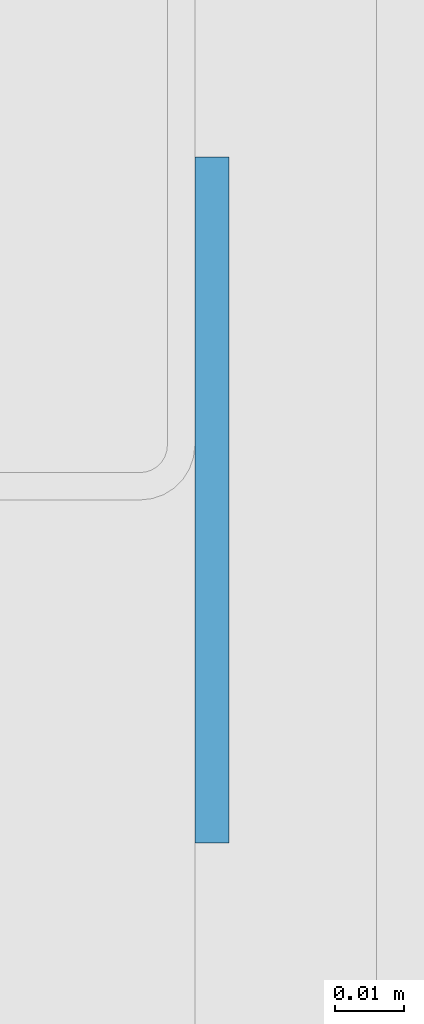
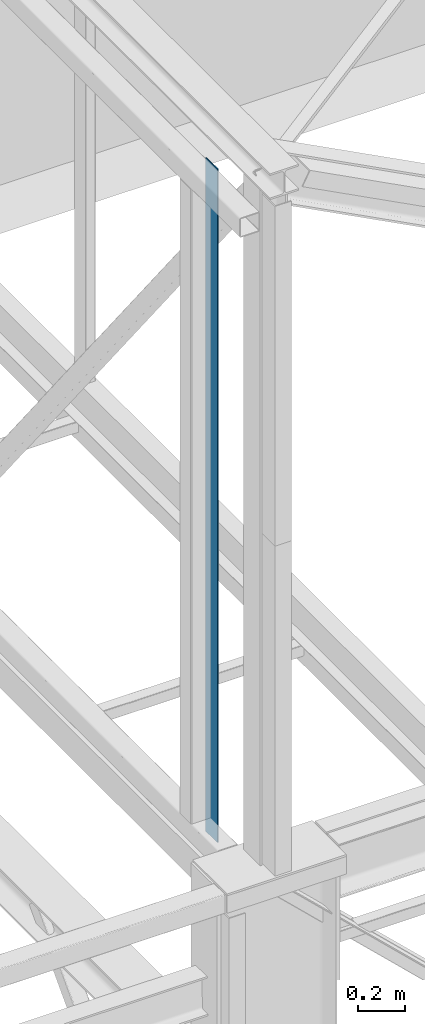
# One storey, part 51 of 123: 1 discrete accessory, 1 element without a shape of its own.
"""IFC2X3 building model written with IfcOpenShell, lengths in millimetres."""

import ifcopenshell
import ifcopenshell.guid

model = None  # the IFC model being written
_history = None  # IfcOwnerHistory: only IFC2X3 demands one
_inside = {}  # id of a spatial element -> (the spatial element, [elements in it])
_under = {}  # id of a project, library or spatial element -> (it, [spatial elements below it])
_declared = {}  # id of a project -> (the project, [libraries it declares])
_typed = {}  # id of a type object -> (the type object, [elements of that type])
_made_of = {}  # id of a material, layer set ... -> (it, [elements and type objects made of it])


def new_model(schema):
    """Start an empty IFC model of exactly this schema.

    Asked for "IFC4X3", IfcOpenShell would pick the latest addendum, in which some entities
    have other attributes; the version numbers below select the first issue.
    IFC2X3 requires an IfcOwnerHistory on every rooted entity: one is made here for all.
    """
    global model, _history
    if schema == "IFC4X3":
        model = ifcopenshell.file(schema_version=(4, 3, 0, 0))
    else:
        model = ifcopenshell.file(schema=schema)
    _inside.clear()
    _under.clear()
    _declared.clear()
    _typed.clear()
    _made_of.clear()
    _history = None
    if model.schema == "IFC2X3":
        org = make("IfcOrganization", Name="unknown")
        user = make(
            "IfcPersonAndOrganization",
            ThePerson=make("IfcPerson", FamilyName="unknown"),
            TheOrganization=org,
        )
        app = make(
            "IfcApplication",
            ApplicationDeveloper=org,
            Version="unknown",
            ApplicationFullName="unknown",
            ApplicationIdentifier="unknown",
        )
        _history = make(
            "IfcOwnerHistory",
            OwningUser=user,
            OwningApplication=app,
            ChangeAction="ADDED",
            CreationDate=0,
        )
    return model


def make(cls, **values):
    """One entity of the class cls with the attributes given. An attribute that is None is left unset."""
    return model.create_entity(
        cls, **{name: value for name, value in values.items() if value is not None}
    )


def rooted(cls, **values):
    """An entity with a GlobalId (a new one), such as an element, a storey or a relation."""
    return make(cls, GlobalId=ifcopenshell.guid.new(), OwnerHistory=_history, **values)


def si_unit(unit_type, name, prefix=None):
    """IfcSIUnit, for example si_unit("LENGTHUNIT", "METRE", prefix="MILLI")."""
    return make("IfcSIUnit", UnitType=unit_type, Prefix=prefix, Name=name)


def assignment(units):
    """IfcUnitAssignment: the units of a project."""
    return None if units is None else make("IfcUnitAssignment", Units=units)


def point(xyz):
    """IfcCartesianPoint."""
    return None if xyz is None else make("IfcCartesianPoint", Coordinates=xyz)


def direction(xyz):
    """IfcDirection."""
    return None if xyz is None else make("IfcDirection", DirectionRatios=xyz)


def frame(location, z_axis=None, x_axis=None):
    """IfcAxis2Placement3D, a coordinate frame: its origin and axes. An axis left out is left unset."""
    return make(
        "IfcAxis2Placement3D",
        Location=point(location),
        Axis=direction(z_axis),
        RefDirection=direction(x_axis),
    )


def origin_with_axes():
    """The frame at (0, 0, 0) with the z axis (0, 0, 1) and the x axis (1, 0, 0) written out."""
    return frame((0.0, 0.0, 0.0), z_axis=(0.0, 0.0, 1.0), x_axis=(1.0, 0.0, 0.0))


def place(relative_to, where):
    """IfcLocalPlacement: puts the frame where relative to a parent placement (None: the world)."""
    return make(
        "IfcLocalPlacement", PlacementRelTo=relative_to, RelativePlacement=where
    )


def context(
    kind, dimensions, precision=None, world=None, true_north=None, identifier=None
):
    """IfcGeometricRepresentationContext, for example the 3D "Model" context."""
    return make(
        "IfcGeometricRepresentationContext",
        ContextIdentifier=identifier,
        ContextType=kind,
        CoordinateSpaceDimension=dimensions,
        Precision=precision,
        WorldCoordinateSystem=world,
        TrueNorth=true_north,
    )


def subcontext(parent, identifier, kind, view, scale=None):
    """IfcGeometricRepresentationSubContext, for example "Body" below "Model"."""
    return make(
        "IfcGeometricRepresentationSubContext",
        ContextIdentifier=identifier,
        ContextType=kind,
        ParentContext=parent,
        TargetScale=scale,
        TargetView=view,
    )


def project(units=None, contexts=None):
    """IfcProject with its units and contexts."""
    return rooted(
        "IfcProject",
        Name="project",
        RepresentationContexts=contexts,
        UnitsInContext=assignment(units),
    )


def spatial(cls, under=None, at=None, **own):
    """A site, building, storey or space (cls), placed at a placement, below another one or the project."""
    s = rooted(cls, ObjectPlacement=at, **own)
    if under is not None:
        _under.setdefault(under.id(), (under, []))[1].append(s)
    return s


def polyline(points):
    """IfcPolyline through the points."""
    return make("IfcPolyline", Points=[point(p) for p in points])


def outline(outer, holes=None, kind="AREA"):
    """IfcArbitraryClosedProfileDef: a profile drawn as a closed curve; with holes, ...WithVoids."""
    if holes is None:
        return make("IfcArbitraryClosedProfileDef", ProfileType=kind, OuterCurve=outer)
    return make(
        "IfcArbitraryProfileDefWithVoids",
        ProfileType=kind,
        OuterCurve=outer,
        InnerCurves=holes,
    )


def extrude(swept, where, along, depth):
    """IfcExtrudedAreaSolid: the profile swept, set in the frame where, extruded along a direction by depth."""
    return make(
        "IfcExtrudedAreaSolid",
        SweptArea=swept,
        Position=where,
        ExtrudedDirection=direction(along),
        Depth=depth,
    )


def shape(context_of_items, identifier, shape_type, items):
    """IfcShapeRepresentation: the items that make up one representation, for example the "Body"."""
    return make(
        "IfcShapeRepresentation",
        ContextOfItems=context_of_items,
        RepresentationIdentifier=identifier,
        RepresentationType=shape_type,
        Items=items,
    )


def material(Name=None, Category=None):
    """IfcMaterial."""
    return make("IfcMaterial", Name=Name, Category=Category)


def made_of(thing, what):
    """Note that an element or type object is made of a material, layer set ...; save() writes the relation."""
    if what is not None:
        _made_of.setdefault(what.id(), (what, []))[1].append(thing)
    return thing


def type_object(cls, material=None, **own):
    """A type object (cls), such as IfcWallType, which elements share."""
    return made_of(rooted(cls, **own), material)


def element(
    cls,
    number,
    at=None,
    inside=None,
    cuts=None,
    type_object=None,
    material=None,
    context=None,
    identifier="Body",
    shape_type=None,
    held_by="IfcProductDefinitionShape",
    body=None,
    shapes=None,
    **own,
):
    """One element of the class cls, such as IfcWall. Its Tag is "e" and its number.

    at: its placement. inside: the storey or other place that contains it. cuts: it is an
    opening in that element (IfcRelVoidsElement). A single representation is given by context,
    identifier, shape_type and body (its items); several are given by shapes. held_by: the class
    of the entity that holds the representations. save() writes the other relations.
    """
    e = rooted(cls, Tag="e%d" % number, ObjectPlacement=at, **own)
    if body is not None:
        shapes = [shape(context, identifier, shape_type, body)]
    if shapes is not None:
        e.Representation = make(held_by, Representations=shapes)
    if inside is not None:
        _inside.setdefault(inside.id(), (inside, []))[1].append(e)
    if cuts is not None:
        rooted(
            "IfcRelVoidsElement", RelatingBuildingElement=cuts, RelatedOpeningElement=e
        )
    if type_object is not None:
        _typed.setdefault(type_object.id(), (type_object, []))[1].append(e)
    return made_of(e, material)


def aggregate(whole, parts):
    """IfcRelAggregates: a whole, such as a stair, and the parts it consists of."""
    return rooted("IfcRelAggregates", RelatingObject=whole, RelatedObjects=parts)


def save(model, path):
    """Write the relations noted so far, then the file.

    IfcRelAggregates (storeys below a building ...), IfcRelContainedInSpatialStructure (elements
    in a storey), IfcRelDefinesByType, IfcRelAssociatesMaterial and IfcRelDeclares: one each for
    every whole, place, type object, material and project.
    """
    for whole, parts in _under.values():
        aggregate(whole, parts)
    for where, things in _inside.values():
        rooted(
            "IfcRelContainedInSpatialStructure",
            RelatedElements=things,
            RelatingStructure=where,
        )
    for kind, things in _typed.values():
        rooted("IfcRelDefinesByType", RelatedObjects=things, RelatingType=kind)
    for what, things in _made_of.values():
        rooted("IfcRelAssociatesMaterial", RelatedObjects=things, RelatingMaterial=what)
    for by, libraries in _declared.values():
        rooted("IfcRelDeclares", RelatingContext=by, RelatedDefinitions=libraries)
    model.write(path)


model = new_model("IFC2X3")

# Units and contexts
model_context = context("Model", 3, precision=1e-05, world=origin_with_axes())
body_context = subcontext(model_context, "Body", "Model", "MODEL_VIEW")
ifc_project = project(units=[si_unit("LENGTHUNIT", "METRE", prefix="MILLI"), si_unit("AREAUNIT", "SQUARE_METRE"), si_unit("VOLUMEUNIT", "CUBIC_METRE"), si_unit("MASSUNIT", "GRAM", prefix="KILO"), si_unit("TIMEUNIT", "SECOND"), si_unit("PLANEANGLEUNIT", "RADIAN"), si_unit("SOLIDANGLEUNIT", "STERADIAN"), si_unit("THERMODYNAMICTEMPERATUREUNIT", "DEGREE_CELSIUS"), si_unit("LUMINOUSINTENSITYUNIT", "LUMEN")], contexts=[model_context])

# Site, building, storey
site_placement = place(None, origin_with_axes())
site = spatial("IfcSite", under=ifc_project, at=site_placement, Name="Undefined", CompositionType="ELEMENT")
building_placement = place(site_placement, origin_with_axes())
building = spatial("IfcBuilding", under=site, at=building_placement, Name="Undefined", CompositionType="ELEMENT")
storey_placement = place(building_placement, origin_with_axes())
storey = spatial("IfcBuildingStorey", under=building, at=storey_placement, Name="Undefined", CompositionType="ELEMENT", Elevation=0.0)

# Assembly, discrete accessory
assembly_placement = place(storey_placement, origin_with_axes())
assembly = element("IfcElementAssembly", 1, at=assembly_placement, inside=storey, Name="Steel Assembly", AssemblyPlace="NOTDEFINED", PredefinedType="RIGID_FRAME")
ifc_material = material(Name="STEEL/S235-E24")
discrete_accessory_type = type_object("IfcDiscreteAccessoryType", Name="FEUILLURE")
discrete_accessory_placement = place(assembly_placement, frame((12616.000107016, 339.9999987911, 8450.0), z_axis=(1.0, 0.0, 0.0), x_axis=(0.0, 0.0, 1.0)))
discrete_accessory = element("IfcDiscreteAccessory", 2, at=discrete_accessory_placement, type_object=discrete_accessory_type, material=ifc_material, Name="FEUILLURE", ObjectType="PL100*5", context=body_context, shape_type="SweptSolid", body=[
    extrude(outline(polyline([(0.0, 50.0), (3470.0, 50.0), (3470.0, -50.0), (0.0, -50.0), (0.0, 50.0)])), frame((0.0, 0.0, -2.5), z_axis=(0.0, 0.0, 1.0), x_axis=(1.0, 0.0, 0.0)), (0.0, 0.0, 1.0), 5.0),
])
aggregate(assembly, [discrete_accessory])

save(model, "model.ifc")
